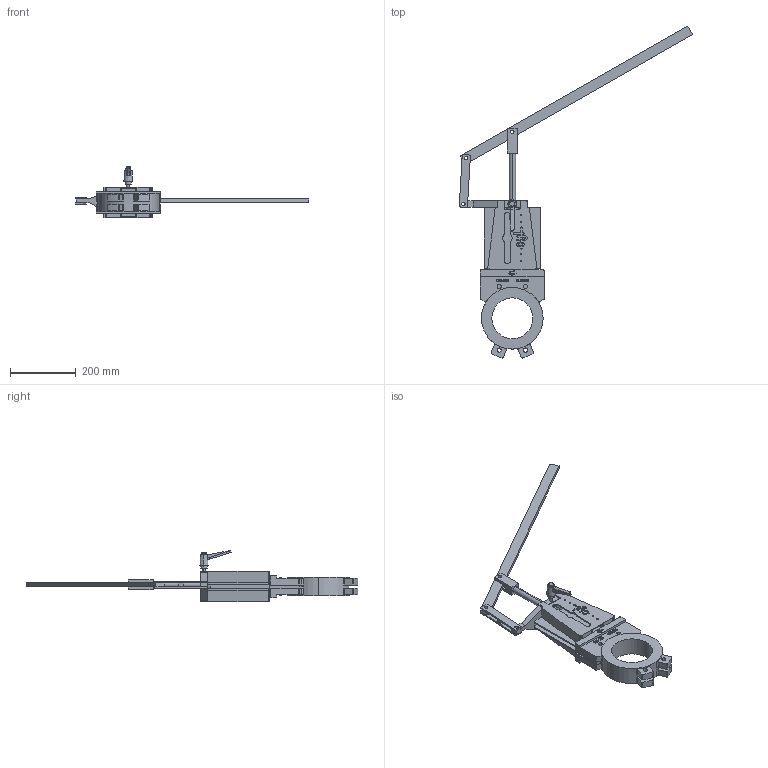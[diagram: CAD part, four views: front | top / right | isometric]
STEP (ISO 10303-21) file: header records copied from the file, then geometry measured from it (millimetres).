
FILE_DESCRIPTION (( 'STEP AP203' ), '1' );
FILE_NAME ('XDP DN125.STEP', '2017-05-24T10:46:23', ( '' ), ( '' ), 'SwSTEP 2.0', 'SolidWorks 2016', '' );
FILE_SCHEMA (( 'CONFIG_CONTROL_DESIGN' ));
Length unit declared in the file: millimetre
Products named in the file (1): XDP DN125
Bounding box: 712.87 x 1012.98 x 156.5 mm (x, y, z)
Volume: 3101630 mm3; surface area: 543792.8 mm2
Topology: 1 solids, 1 shells, 819 faces, 2278 edges, 1501 vertices
Faces by surface type: plane 436, cylinder 239, bspline 138, cone 6
Entity records: 34673 total; most frequent: CARTESIAN_POINT 13970, ORIENTED_EDGE 4556, DIRECTION 3878, EDGE_CURVE 2278, VERTEX_POINT 1501, LINE 1476, VECTOR 1476, AXIS2_PLACEMENT_3D 1201
